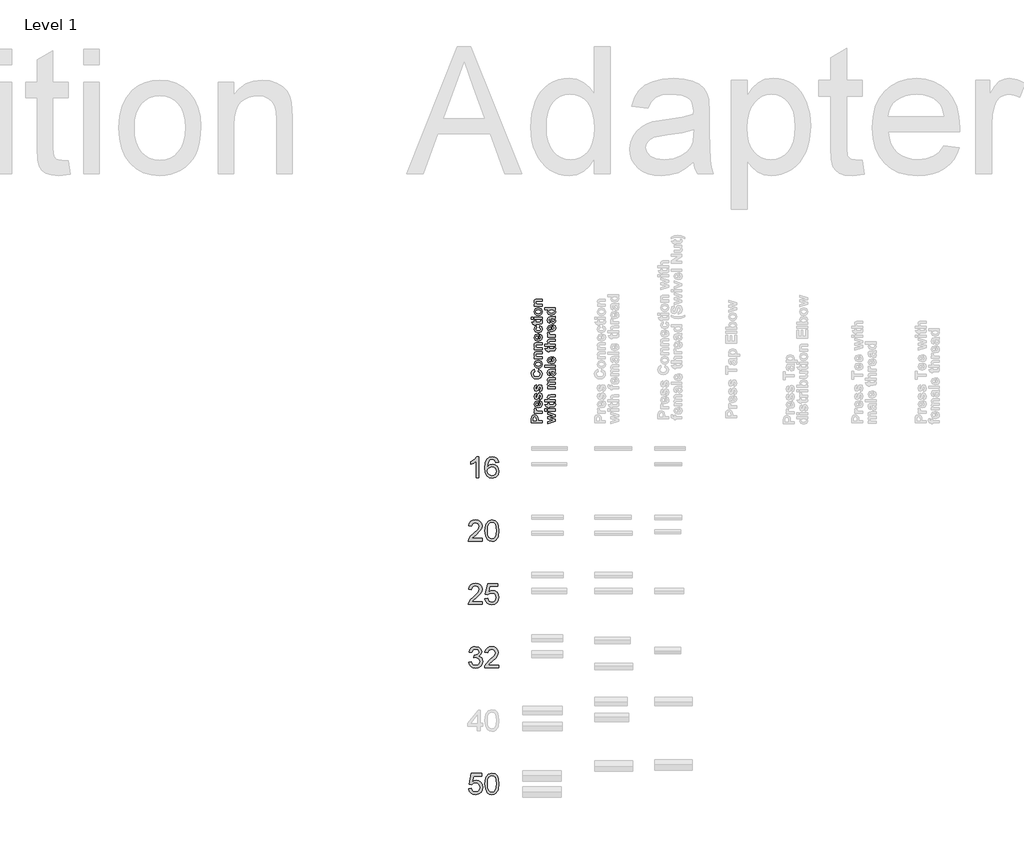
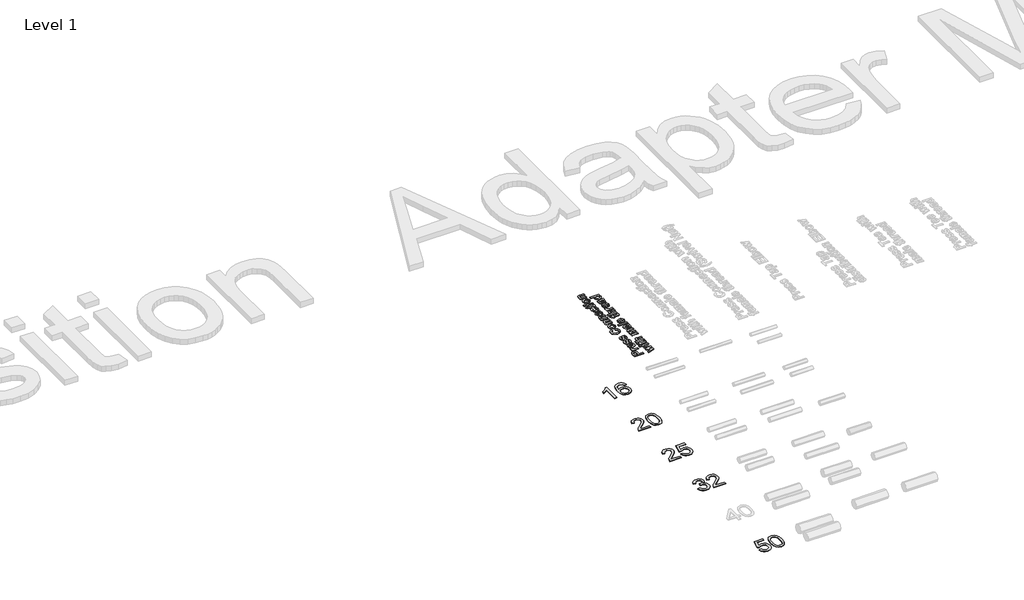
# One storey, part 41 of 58: 6 proxies.
"""IFC4 building model written with IfcOpenShell, lengths in millimetres."""

from ifc_helpers import new_model, si_unit, frame, origin, place, context, project, spatial, polyline, outline, extrude, element, save

model = new_model("IFC4")

# Units and contexts
model_context = context("Model", 3, world=origin())
ifc_project = project(units=[si_unit("LENGTHUNIT", "METRE", prefix="MILLI")], contexts=[model_context])

# Site, building, storey
site = spatial("IfcSite", under=ifc_project)
building = spatial("IfcBuilding", under=site)
storey = spatial("IfcBuildingStorey", under=building, Name="Level 1", Elevation=27.3876384)

# Proxies
placement = place(None, origin())
element("IfcBuildingElementProxy", 1, Name="100mm Arial", ObjectType="100mm Arial", at=placement, inside=storey, context=model_context, shape_type="SweptSolid", body=[
    extrude(outline(polyline([(29135.7147436, 29858.5322172), (29135.7147436, 29845.9751784), (29069.7902901, 29845.9751784), (29071.1391907, 29854.632668), (29078.7666107, 29867.962259), (29094.4874347, 29882.5181233), (29116.1679469, 29903.438346), (29121.588075, 29917.6631165), (29116.4745153, 29929.177823), (29103.1203988, 29933.8744498), (29089.2021967, 29929.2881876), (29083.9169587, 29916.6085215), (29071.3599199, 29918.1781513), (29074.4041434, 29930.3243885), (29080.9861655, 29939.196476), (29090.7626295, 29944.6227354), (29103.390179, 29946.4314885), (29116.1096989, 29944.4204003), (29125.8677689, 29938.3871356), (29132.0757775, 29929.3740267), (29134.1451138, 29918.423406), (29131.9132963, 29906.5162921), (29124.4943428, 29894.204508), (29106.5049132, 29876.9998933), (29092.0594135, 29864.9211012), (29086.3940308, 29858.5322172), (29135.7147436, 29858.5322172)])), frame((0.0, 0.0, 27.3876384), z_axis=(0.0, 0.0, 1.0), x_axis=(1.0, 0.0, 0.0)), (0.0, 0.0, 1.0), 2.0),
    extrude(outline(polyline([(29148.2717824, 29895.3939931), (29151.9628651, 29924.2972552), (29162.9257485, 29940.9623096), (29181.2340091, 29946.4314885), (29195.900238, 29943.194127), (29206.0292556, 29933.862187), (29211.9153675, 29918.9997544), (29214.1962359, 29895.3939931), (29210.5419414, 29866.6133583), (29199.6158462, 29849.9115157), (29191.3844865, 29845.7820404), (29181.2340091, 29844.4055486), (29168.186461, 29846.7967815), (29158.2781726, 29853.9704804), (29150.7733799, 29870.9604972), (29148.2717824, 29895.3939931)]), holes=[polyline([(29160.8288211, 29895.4185186), (29162.3003491, 29875.6663211), (29166.7149331, 29864.2343881), (29173.287758, 29858.7805375), (29181.2340091, 29856.9625873), (29189.1802602, 29858.7866689), (29195.7530852, 29864.2589136), (29200.1676692, 29875.6969779), (29201.6391971, 29895.4185186), (29200.2167201, 29914.7261919), (29195.9492889, 29926.2470297), (29189.3887267, 29931.9675948), (29181.0868563, 29933.8744498), (29173.2264444, 29932.1944553), (29166.9111368, 29927.154472), (29162.3494001, 29914.9162643), (29160.8288211, 29895.4185186)])]), frame((0.0, 0.0, 27.3876384), z_axis=(0.0, 0.0, 1.0), x_axis=(1.0, 0.0, 0.0)), (0.0, 0.0, 1.0), 2.0),
])
element("IfcBuildingElementProxy", 2, Name="100mm Arial", ObjectType="100mm Arial", at=placement, inside=storey, context=model_context, shape_type="SweptSolid", body=[
    extrude(outline(polyline([(29135.7147436, 29558.5322172), (29135.7147436, 29545.9751784), (29069.7902901, 29545.9751784), (29071.1391907, 29554.632668), (29078.7666107, 29567.962259), (29094.4874347, 29582.5181233), (29116.1679469, 29603.438346), (29121.588075, 29617.6631165), (29116.4745153, 29629.177823), (29103.1203988, 29633.8744498), (29089.2021967, 29629.2881876), (29083.9169587, 29616.6085215), (29071.3599199, 29618.1781513), (29074.4041434, 29630.3243885), (29080.9861655, 29639.196476), (29090.7626295, 29644.6227354), (29103.390179, 29646.4314885), (29116.1096989, 29644.4204003), (29125.8677689, 29638.3871356), (29132.0757775, 29629.3740267), (29134.1451138, 29618.423406), (29131.9132963, 29606.5162921), (29124.4943428, 29594.204508), (29106.5049132, 29576.9998933), (29092.0594135, 29564.9211012), (29086.3940308, 29558.5322172), (29135.7147436, 29558.5322172)])), frame((0.0, 0.0, 27.3876384), z_axis=(0.0, 0.0, 1.0), x_axis=(1.0, 0.0, 0.0)), (0.0, 0.0, 1.0), 2.0),
    extrude(outline(polyline([(29148.2717824, 29572.6588858), (29160.8288211, 29574.2285156), (29167.1563915, 29561.2913321), (29180.277516, 29556.9625873), (29189.2783621, 29558.4678378), (29196.0228653, 29562.9835893), (29200.2351142, 29569.9886756), (29201.6391971, 29578.9619306), (29196.3784846, 29593.8734142), (29189.7719371, 29597.9752984), (29180.4737197, 29599.3425932), (29169.4495226, 29597.1598267), (29162.398451, 29591.4944439), (29149.8414122, 29593.0640738), (29160.8288211, 29644.8618587), (29209.4873464, 29644.8618587), (29209.4873464, 29632.3048199), (29170.9823642, 29632.3048199), (29165.6112871, 29604.6400939), (29174.5814764, 29610.0847474), (29183.9808614, 29611.8996319), (29195.7132313, 29609.6494204), (29205.4529072, 29602.8987858), (29212.0104037, 29592.6103527), (29214.1962359, 29579.7467456), (29212.2280672, 29567.1897068), (29206.3235612, 29556.4475525), (29195.0173212, 29547.4160495), (29180.228465, 29544.4055486), (29167.8952211, 29546.3399947), (29158.0697062, 29552.1433332), (29151.3344, 29561.1411136), (29148.2717824, 29572.6588858)])), frame((0.0, 0.0, 27.3876384), z_axis=(0.0, 0.0, 1.0), x_axis=(1.0, 0.0, 0.0)), (0.0, 0.0, 1.0), 2.0),
])
element("IfcBuildingElementProxy", 3, Name="100mm Arial", ObjectType="100mm Arial", at=placement, inside=storey, context=model_context, shape_type="SweptSolid", body=[
    extrude(outline(polyline([(29071.3599199, 29272.6588858), (29083.9169587, 29274.2285156), (29090.8454029, 29261.0092893), (29103.8071119, 29256.9625873), (29112.4155506, 29258.3544075), (29119.061952, 29262.5298682), (29124.7273347, 29276.3131803), (29119.1110029, 29289.2994147), (29104.8371815, 29294.4374999), (29096.0325391, 29293.0640738), (29097.4304906, 29305.6211125), (29099.4415789, 29305.4739598), (29113.6908748, 29309.0792033), (29118.4365526, 29313.6532028), (29120.0184451, 29320.1647141), (29115.4321829, 29329.9871634), (29103.6109082, 29333.8744498), (29091.6424806, 29329.9503752), (29085.4865885, 29318.1781513), (29072.9295498, 29319.7477812), (29076.6267638, 29331.0233643), (29083.2057202, 29339.4417306), (29092.2065663, 29344.6840491), (29103.1694498, 29346.4314885), (29118.3139252, 29342.9856605), (29128.9089267, 29333.5678815), (29132.5754839, 29320.9004781), (29129.0928677, 29309.324458), (29118.7921718, 29301.0103249), (29132.477382, 29292.4264117), (29137.2843734, 29276.0924511), (29134.8808777, 29263.8542434), (29127.6703906, 29253.6271239), (29116.787215, 29246.7109424), (29103.3656535, 29244.4055486), (29091.2255477, 29246.3737172), (29081.3417847, 29252.2782232), (29074.4685228, 29261.3097262), (29071.3599199, 29272.6588858)])), frame((0.0, 0.0, 27.3876384), z_axis=(0.0, 0.0, 1.0), x_axis=(1.0, 0.0, 0.0)), (0.0, 0.0, 1.0), 2.0),
    extrude(outline(polyline([(29212.6266061, 29258.5322172), (29212.6266061, 29245.9751784), (29146.7021525, 29245.9751784), (29148.0510532, 29254.632668), (29155.6784732, 29267.962259), (29171.3992971, 29282.5181233), (29193.0798094, 29303.438346), (29198.4999374, 29317.6631165), (29193.3863777, 29329.177823), (29180.0322613, 29333.8744498), (29166.1140591, 29329.2881876), (29160.8288211, 29316.6085215), (29148.2717824, 29318.1781513), (29151.3160059, 29330.3243885), (29157.8980279, 29339.196476), (29167.6744919, 29344.6227354), (29180.3020414, 29346.4314885), (29193.0215614, 29344.4204003), (29202.7796313, 29338.3871356), (29208.98764, 29329.3740267), (29211.0569762, 29318.423406), (29208.8251588, 29306.5162921), (29201.4062052, 29294.204508), (29183.4167756, 29276.9998933), (29168.971276, 29264.9211012), (29163.3058932, 29258.5322172), (29212.6266061, 29258.5322172)])), frame((0.0, 0.0, 27.3876384), z_axis=(0.0, 0.0, 1.0), x_axis=(1.0, 0.0, 0.0)), (0.0, 0.0, 1.0), 2.0),
])
element("IfcBuildingElementProxy", 4, Name="100mm Arial", ObjectType="100mm Arial", at=placement, inside=storey, context=model_context, shape_type="SweptSolid", body=[
    extrude(outline(polyline([(29118.4488153, 30145.9751784), (29105.8917765, 30145.9751784), (29105.8917765, 30224.260467), (29093.9969253, 30215.7869183), (29080.777699, 30209.4470853), (29080.777699, 30221.317411), (29099.1840615, 30233.0651094), (29110.3554114, 30246.4314885), (29118.4488153, 30246.4314885), (29118.4488153, 30145.9751784)])), frame((0.0, 0.0, 27.3876384), z_axis=(0.0, 0.0, 1.0), x_axis=(1.0, 0.0, 0.0)), (0.0, 0.0, 1.0), 2.0),
    extrude(outline(polyline([(29212.6266061, 30219.7477812), (29200.0695673, 30218.1781513), (29195.3116268, 30228.6505254), (29182.7300626, 30233.8744498), (29171.3992971, 30230.833292), (29162.8276466, 30219.4166874), (29159.2591913, 30197.0371993), (29170.3324393, 30207.0558523), (29184.0544378, 30210.3300021), (29195.6549834, 30208.0920533), (29205.3915935, 30201.3782069), (29211.9950753, 30191.1204306), (29214.1962359, 30178.2506921), (29210.0514321, 30160.9234501), (29198.6470902, 30148.660717), (29182.1905023, 30144.4055486), (29167.9442721, 30147.2259772), (29156.5981782, 30155.6872631), (29149.1761589, 30170.6232721), (29146.7021525, 30192.8678701), (29149.4490048, 30217.8777144), (29157.6895614, 30234.9780958), (29168.9406191, 30243.5681404), (29183.5148775, 30246.4314885), (29194.5329433, 30244.6595236), (29203.3559798, 30239.3436288), (29209.5363973, 30230.900737), (29212.6266061, 30219.7477812)]), holes=[polyline([(29159.2591913, 30178.4468958), (29162.1654591, 30167.5698515), (29169.890981, 30159.6726514), (29181.2094837, 30156.9625873), (29189.4960256, 30158.3666703), (29196.0106026, 30162.5789191), (29200.2320485, 30169.200795), (29201.6391971, 30177.8337592), (29200.2504426, 30186.1203011), (29196.084179, 30192.4386744), (29189.4592374, 30196.4393911), (29180.6944489, 30197.7729633), (29165.5009225, 30192.4386744), (29160.8196241, 30186.2735853), (29159.2591913, 30178.4468958)])]), frame((0.0, 0.0, 27.3876384), z_axis=(0.0, 0.0, 1.0), x_axis=(1.0, 0.0, 0.0)), (0.0, 0.0, 1.0), 2.0),
])
element("IfcBuildingElementProxy", 5, Name="100mm Arial", ObjectType="100mm Arial", at=placement, inside=storey, context=model_context, shape_type="SweptSolid", body=[
    extrude(outline(polyline([(29071.3599199, 28672.6588858), (29083.9169587, 28674.2285156), (29090.244529, 28661.2913321), (29103.3656535, 28656.9625873), (29112.3664996, 28658.4678378), (29119.1110029, 28662.9835893), (29123.3232517, 28669.9886756), (29124.7273347, 28678.9619306), (29119.4666221, 28693.8734142), (29112.8600747, 28697.9752984), (29103.5618572, 28699.3425932), (29092.5376601, 28697.1598267), (29085.4865885, 28691.4944439), (29072.9295498, 28693.0640738), (29083.9169587, 28744.8618587), (29132.5754839, 28744.8618587), (29132.5754839, 28732.3048199), (29094.0705017, 28732.3048199), (29088.6994246, 28704.6400939), (29097.6696139, 28710.0847474), (29107.0689989, 28711.8996319), (29118.8013689, 28709.6494204), (29128.5410447, 28702.8987858), (29135.0985413, 28692.6103527), (29137.2843734, 28679.7467456), (29135.3162048, 28667.1897068), (29129.4116988, 28656.4475525), (29118.1054588, 28647.4160495), (29103.3166026, 28644.4055486), (29090.9833587, 28646.3399947), (29081.1578437, 28652.1433332), (29074.4225375, 28661.1411136), (29071.3599199, 28672.6588858)])), frame((0.0, 0.0, 27.3876384), z_axis=(0.0, 0.0, 1.0), x_axis=(1.0, 0.0, 0.0)), (0.0, 0.0, 1.0), 2.0),
    extrude(outline(polyline([(29148.2717824, 28695.3939931), (29151.9628651, 28724.2972552), (29162.9257485, 28740.9623096), (29181.2340091, 28746.4314885), (29195.900238, 28743.194127), (29206.0292556, 28733.862187), (29211.9153675, 28718.9997544), (29214.1962359, 28695.3939931), (29210.5419414, 28666.6133583), (29199.6158462, 28649.9115157), (29191.3844865, 28645.7820404), (29181.2340091, 28644.4055486), (29168.186461, 28646.7967815), (29158.2781726, 28653.9704804), (29150.7733799, 28670.9604972), (29148.2717824, 28695.3939931)]), holes=[polyline([(29160.8288211, 28695.4185186), (29162.3003491, 28675.6663211), (29166.7149331, 28664.2343881), (29173.287758, 28658.7805375), (29181.2340091, 28656.9625873), (29189.1802602, 28658.7866689), (29195.7530852, 28664.2589136), (29200.1676692, 28675.6969779), (29201.6391971, 28695.4185186), (29200.2167201, 28714.7261919), (29195.9492889, 28726.2470297), (29189.3887267, 28731.9675948), (29181.0868563, 28733.8744498), (29173.2264444, 28732.1944553), (29166.9111368, 28727.154472), (29162.3494001, 28714.9162643), (29160.8288211, 28695.4185186)])]), frame((0.0, 0.0, 27.3876384), z_axis=(0.0, 0.0, 1.0), x_axis=(1.0, 0.0, 0.0)), (0.0, 0.0, 1.0), 2.0),
])
element("IfcBuildingElementProxy", 6, Name="50mm Arial", ObjectType="50mm Arial", at=placement, inside=storey, context=model_context, shape_type="SweptSolid", body=[
    extrude(outline(polyline([(29419.1417262, 30406.1759681), (29368.1287562, 30406.1759681), (29368.1287562, 30422.6109503), (29368.8878778, 30434.7948516), (29373.8537981, 30442.1013968), (29383.7287046, 30445.0429929), (29391.5792869, 30443.3159913), (29396.5768373, 30438.9257382), (29398.9870483, 30433.516997), (29399.7082138, 30422.6995145), (29399.7082138, 30415.8927243), (29419.1417262, 30415.8927243), (29419.1417262, 30406.1759681)]), holes=[polyline([(29377.0357827, 30415.8927243), (29390.8011873, 30415.8927243), (29390.8011873, 30421.9277409), (29390.0420657, 30430.638661), (29387.6571588, 30434.0800121), (29383.8805289, 30435.3262367), (29379.5155798, 30433.5739311), (29377.3647354, 30429.1520479), (29377.0357827, 30421.2192274), (29377.0357827, 30415.8927243)])]), frame((0.0, 0.0, 27.3876384), z_axis=(0.0, 0.0, 1.0), x_axis=(1.0, 0.0, 0.0)), (0.0, 0.0, 1.0), 2.0),
    extrude(outline(polyline([(29419.1417262, 30462.8570459), (29419.1417262, 30453.1402897), (29381.8941608, 30453.1402897), (29381.8941608, 30462.8570459), (29387.0814916, 30462.8570459), (29382.2420915, 30466.741218), (29381.0844311, 30470.6633461), (29383.1340594, 30476.6224505), (29392.3826906, 30473.7883966), (29390.8011873, 30469.2842753), (29391.9082396, 30465.8619022), (29395.8999539, 30463.6604496), (29407.995291, 30462.8570459), (29419.1417262, 30462.8570459)])), frame((0.0, 0.0, 27.3876384), z_axis=(0.0, 0.0, 1.0), x_axis=(1.0, 0.0, 0.0)), (0.0, 0.0, 1.0), 2.0),
    extrude(outline(polyline([(29407.8055106, 30501.7240707), (29409.42497, 30511.4408269), (29417.2629003, 30505.6461988), (29419.9514559, 30495.7396622), (29418.3667896, 30487.5506382), (29413.6127907, 30481.8097813), (29400.7962881, 30478.2419099), (29386.32237, 30482.9737677), (29381.0844311, 30494.9425846), (29386.4615423, 30507.7590872), (29402.9471325, 30512.2505566), (29402.9471325, 30487.9586661), (29410.1081794, 30490.2486828), (29412.6638887, 30495.7017062), (29411.5125543, 30499.4340539), (29407.8055106, 30501.7240707)]), holes=[polyline([(29397.2790248, 30502.5338004), (29390.643037, 30500.3703039), (29388.3719982, 30495.3601015), (29390.7632312, 30490.1474666), (29397.2790248, 30488.1231424), (29397.2790248, 30502.5338004)])]), frame((0.0, 0.0, 27.3876384), z_axis=(0.0, 0.0, 1.0), x_axis=(1.0, 0.0, 0.0)), (0.0, 0.0, 1.0), 2.0),
    extrude(outline(polyline([(29408.6152403, 30515.4894753), (29406.9957809, 30525.2062315), (29411.2215577, 30527.6923546), (29412.6638887, 30532.9366195), (29411.2848179, 30538.5161631), (29408.7038045, 30539.7813658), (29406.8819127, 30539.1108084), (29405.604058, 30535.9351498), (29400.8468962, 30521.3726675), (29392.4839068, 30517.1089346), (29384.3739579, 30520.7653702), (29381.0844311, 30532.1142378), (29383.7413566, 30542.9823284), (29391.610917, 30547.8786626), (29393.2303763, 30538.1619064), (29389.6245488, 30536.2894065), (29388.3719982, 30532.3672784), (29389.4347685, 30527.7492888), (29391.4084846, 30526.8256908), (29393.1671162, 30527.7492888), (29395.8873019, 30536.3463406), (29400.2269469, 30546.61346), (29407.527166, 30549.4981219), (29416.2886942, 30545.3166273), (29419.9514559, 30532.9366195), (29416.9023175, 30521.1639091), (29408.6152403, 30515.4894753)])), frame((0.0, 0.0, 27.3876384), z_axis=(0.0, 0.0, 1.0), x_axis=(1.0, 0.0, 0.0)), (0.0, 0.0, 1.0), 2.0),
    extrude(outline(polyline([(29408.6152403, 30554.3565), (29406.9957809, 30564.0732562), (29411.2215577, 30566.5593794), (29412.6638887, 30571.8036443), (29411.2848179, 30577.3831879), (29408.7038045, 30578.6483905), (29406.8819127, 30577.9778331), (29405.604058, 30574.8021745), (29400.8468962, 30560.2396923), (29392.4839068, 30555.9759594), (29384.3739579, 30559.632395), (29381.0844311, 30570.9812626), (29383.7413566, 30581.8493532), (29391.610917, 30586.7456873), (29393.2303763, 30577.0289312), (29389.6245488, 30575.1564313), (29388.3719982, 30571.2343031), (29389.4347685, 30566.6163135), (29391.4084846, 30565.6927156), (29393.1671162, 30566.6163135), (29395.8873019, 30575.2133654), (29400.2269469, 30585.4804847), (29407.527166, 30588.3651467), (29416.2886942, 30584.183652), (29419.9514559, 30571.8036443), (29416.9023175, 30560.0309338), (29408.6152403, 30554.3565)])), frame((0.0, 0.0, 27.3876384), z_axis=(0.0, 0.0, 1.0), x_axis=(1.0, 0.0, 0.0)), (0.0, 0.0, 1.0), 2.0),
    extrude(outline(polyline([(29399.7082138, 30649.9046026), (29402.9471325, 30659.6213588), (29415.1500119, 30651.9668829), (29419.1417262, 30638.3786066), (29417.4368656, 30629.1015084), (29412.322284, 30621.6399758), (29404.2502912, 30616.7246636), (29393.6731973, 30615.0862262), (29382.5583922, 30616.7388972), (29374.2396849, 30621.69691), (29369.0491911, 30629.3498044), (29367.3190265, 30639.0871201), (29368.7455425, 30647.6145858), (29373.0250904, 30654.3707679), (29382.7038905, 30659.6213588), (29384.3233498, 30649.9046026), (29378.3958755, 30645.8749322), (29376.226053, 30638.4165627), (29380.1671592, 30628.5796123), (29392.9267277, 30624.8029824), (29406.2619634, 30628.465744), (29410.2346997, 30637.9990458), (29407.6979684, 30645.4321113), (29399.7082138, 30649.9046026)])), frame((0.0, 0.0, 27.3876384), z_axis=(0.0, 0.0, 1.0), x_axis=(1.0, 0.0, 0.0)), (0.0, 0.0, 1.0), 2.0),
    extrude(outline(polyline([(29399.9865584, 30665.2894665), (29390.5038647, 30667.6870255), (29383.5009681, 30674.4748376), (29381.0844311, 30684.280158), (29386.5627585, 30698.0012805), (29400.4167273, 30703.3467616), (29414.4035423, 30697.9443464), (29419.9514559, 30684.3560702), (29417.6424611, 30674.6835961), (29410.867301, 30667.6870255), (29399.9865584, 30665.2894665)]), holes=[polyline([(29400.5179435, 30675.0062227), (29409.5325122, 30677.6947783), (29412.6638887, 30684.3307661), (29409.5325122, 30690.9541019), (29400.4420313, 30693.6300054), (29391.5033747, 30690.9541019), (29388.3719982, 30684.3307661), (29391.5033747, 30677.6947783), (29400.5179435, 30675.0062227)])]), frame((0.0, 0.0, 27.3876384), z_axis=(0.0, 0.0, 1.0), x_axis=(1.0, 0.0, 0.0)), (0.0, 0.0, 1.0), 2.0),
    extrude(outline(polyline([(29419.1417262, 30743.8332457), (29419.1417262, 30734.1164896), (29399.9992104, 30734.1164896), (29392.1296501, 30733.5091923), (29389.3588563, 30731.5228242), (29388.3719982, 30728.2206453), (29389.7826992, 30723.7734581), (29393.527699, 30721.0785765), (29402.1500549, 30720.351085), (29419.1417262, 30720.351085), (29419.1417262, 30710.6343288), (29381.8941608, 30710.6343288), (29381.8941608, 30720.351085), (29387.2586199, 30720.351085), (29382.6279783, 30725.5668828), (29381.0844311, 30731.9782971), (29382.2610695, 30737.6211008), (29385.2595998, 30741.4926209), (29389.3904864, 30743.3208387), (29396.0138221, 30743.8332457), (29419.1417262, 30743.8332457)])), frame((0.0, 0.0, 27.3876384), z_axis=(0.0, 0.0, 1.0), x_axis=(1.0, 0.0, 0.0)), (0.0, 0.0, 1.0), 2.0),
    extrude(outline(polyline([(29419.1417262, 30786.7489189), (29419.1417262, 30777.0321627), (29399.9992104, 30777.0321627), (29392.1296501, 30776.4248655), (29389.3588563, 30774.4384973), (29388.3719982, 30771.1363185), (29389.7826992, 30766.6891312), (29393.527699, 30763.9942496), (29402.1500549, 30763.2667581), (29419.1417262, 30763.2667581), (29419.1417262, 30753.5500019), (29381.8941608, 30753.5500019), (29381.8941608, 30763.2667581), (29387.2586199, 30763.2667581), (29382.6279783, 30768.482556), (29381.0844311, 30774.8939703), (29382.2610695, 30780.536774), (29385.2595998, 30784.4082941), (29389.3904864, 30786.2365119), (29396.0138221, 30786.7489189), (29419.1417262, 30786.7489189)])), frame((0.0, 0.0, 27.3876384), z_axis=(0.0, 0.0, 1.0), x_axis=(1.0, 0.0, 0.0)), (0.0, 0.0, 1.0), 2.0),
    extrude(outline(polyline([(29407.8055106, 30817.5186469), (29409.42497, 30827.235403), (29417.2629003, 30821.440775), (29419.9514559, 30811.5342384), (29418.3667896, 30803.3452144), (29413.6127907, 30797.6043575), (29400.7962881, 30794.0364861), (29386.32237, 30798.7683439), (29381.0844311, 30810.7371608), (29386.4615423, 30823.5536634), (29402.9471325, 30828.0451327), (29402.9471325, 30803.7532423), (29410.1081794, 30806.043259), (29412.6638887, 30811.4962823), (29411.5125543, 30815.2286301), (29407.8055106, 30817.5186469)]), holes=[polyline([(29397.2790248, 30818.3283765), (29390.643037, 30816.16488), (29388.3719982, 30811.1546776), (29390.7632312, 30805.9420428), (29397.2790248, 30803.9177186), (29397.2790248, 30818.3283765)])]), frame((0.0, 0.0, 27.3876384), z_axis=(0.0, 0.0, 1.0), x_axis=(1.0, 0.0, 0.0)), (0.0, 0.0, 1.0), 2.0),
    extrude(outline(polyline([(29392.4206467, 30866.1024278), (29394.040106, 30856.3856716), (29389.7953512, 30854.3170653), (29388.3719982, 30850.1229186), (29391.0415758, 30844.6572432), (29399.9612543, 30842.620267), (29409.7918788, 30844.7394814), (29412.6638887, 30850.4265672), (29411.0254513, 30854.7978423), (29405.3763216, 30857.1954013), (29406.9957809, 30866.9121575), (29416.6809071, 30861.3136359), (29419.9514559, 30850.2114828), (29414.8020812, 30837.6037386), (29400.5558996, 30832.9035108), (29386.2148278, 30837.5721085), (29381.0844311, 30850.2114828), (29383.8868549, 30860.5734923), (29392.4206467, 30866.1024278)])), frame((0.0, 0.0, 27.3876384), z_axis=(0.0, 0.0, 1.0), x_axis=(1.0, 0.0, 0.0)), (0.0, 0.0, 1.0), 2.0),
    extrude(outline(polyline([(29381.8941608, 30892.0137776), (29389.1817279, 30892.0137776), (29389.1817279, 30884.7262105), (29405.1612371, 30884.7262105), (29410.8103669, 30884.947621), (29412.1388296, 30885.9534571), (29412.6638887, 30887.863913), (29411.7276388, 30892.4186425), (29418.6356451, 30892.8235073), (29419.9514559, 30884.8653828), (29419.04051, 30879.9563966), (29416.6872331, 30876.7491079), (29412.777757, 30875.325755), (29405.7052743, 30875.0094543), (29389.1817279, 30875.0094543), (29389.1817279, 30870.1510762), (29381.8941608, 30870.1510762), (29381.8941608, 30875.0094543), (29374.6065936, 30875.0094543), (29368.9384859, 30884.7262105), (29381.8941608, 30884.7262105), (29381.8941608, 30892.0137776)])), frame((0.0, 0.0, 27.3876384), z_axis=(0.0, 0.0, 1.0), x_axis=(1.0, 0.0, 0.0)), (0.0, 0.0, 1.0), 2.0),
    extrude(outline(polyline([(29377.0357827, 30897.6818854), (29368.1287562, 30897.6818854), (29368.1287562, 30907.3986416), (29377.0357827, 30907.3986416), (29377.0357827, 30897.6818854)])), frame((0.0, 0.0, 27.3876384), z_axis=(0.0, 0.0, 1.0), x_axis=(1.0, 0.0, 0.0)), (0.0, 0.0, 1.0), 2.0),
    extrude(outline(polyline([(29419.1417262, 30897.6818854), (29381.8941608, 30897.6818854), (29381.8941608, 30907.3986416), (29419.1417262, 30907.3986416), (29419.1417262, 30897.6818854)])), frame((0.0, 0.0, 27.3876384), z_axis=(0.0, 0.0, 1.0), x_axis=(1.0, 0.0, 0.0)), (0.0, 0.0, 1.0), 2.0),
    extrude(outline(polyline([(29399.9865584, 30914.6862088), (29390.5038647, 30917.0837677), (29383.5009681, 30923.8715798), (29381.0844311, 30933.6769002), (29386.5627585, 30947.3980227), (29400.4167273, 30952.7435038), (29414.4035423, 30947.3410886), (29419.9514559, 30933.7528124), (29417.6424611, 30924.0803383), (29410.867301, 30917.0837677), (29399.9865584, 30914.6862088)]), holes=[polyline([(29400.5179435, 30924.4029649), (29409.5325122, 30927.0915205), (29412.6638887, 30933.7275083), (29409.5325122, 30940.3508441), (29400.4420313, 30943.0267476), (29391.5033747, 30940.3508441), (29388.3719982, 30933.7275083), (29391.5033747, 30927.0915205), (29400.5179435, 30924.4029649)])]), frame((0.0, 0.0, 27.3876384), z_axis=(0.0, 0.0, 1.0), x_axis=(1.0, 0.0, 0.0)), (0.0, 0.0, 1.0), 2.0),
    extrude(outline(polyline([(29419.1417262, 30993.229988), (29419.1417262, 30983.5132318), (29399.9992104, 30983.5132318), (29392.1296501, 30982.9059345), (29389.3588563, 30980.9195664), (29388.3719982, 30977.6173875), (29389.7826992, 30973.1702003), (29393.527699, 30970.4753187), (29402.1500549, 30969.7478272), (29419.1417262, 30969.7478272), (29419.1417262, 30960.031071), (29381.8941608, 30960.031071), (29381.8941608, 30969.7478272), (29387.2586199, 30969.7478272), (29382.6279783, 30974.963625), (29381.0844311, 30981.3750393), (29382.2610695, 30987.0178431), (29385.2595998, 30990.8893631), (29389.3904864, 30992.7175809), (29396.0138221, 30993.229988), (29419.1417262, 30993.229988)])), frame((0.0, 0.0, 27.3876384), z_axis=(0.0, 0.0, 1.0), x_axis=(1.0, 0.0, 0.0)), (0.0, 0.0, 1.0), 2.0),
    extrude(outline(polyline([(29482.0974011, 30413.9443123), (29444.8498357, 30402.1273197), (29444.8498357, 30411.7302077), (29469.2555944, 30418.7267782), (29444.8498357, 30425.2678758), (29444.8498357, 30435.0099361), (29469.2555944, 30441.3992093), (29444.8498357, 30448.4210839), (29444.8498357, 30457.9986678), (29482.0974011, 30446.2069793), (29482.0974011, 30436.6673515), (29458.1471153, 30430.0629938), (29482.0974011, 30423.6231124), (29482.0974011, 30413.9443123)])), frame((0.0, 0.0, 27.3876384), z_axis=(0.0, 0.0, 1.0), x_axis=(1.0, 0.0, 0.0)), (0.0, 0.0, 1.0), 2.0),
    extrude(outline(polyline([(29439.9914576, 30462.8570459), (29431.0844311, 30462.8570459), (29431.0844311, 30472.5738021), (29439.9914576, 30472.5738021), (29439.9914576, 30462.8570459)])), frame((0.0, 0.0, 27.3876384), z_axis=(0.0, 0.0, 1.0), x_axis=(1.0, 0.0, 0.0)), (0.0, 0.0, 1.0), 2.0),
    extrude(outline(polyline([(29482.0974011, 30462.8570459), (29444.8498357, 30462.8570459), (29444.8498357, 30472.5738021), (29482.0974011, 30472.5738021), (29482.0974011, 30462.8570459)])), frame((0.0, 0.0, 27.3876384), z_axis=(0.0, 0.0, 1.0), x_axis=(1.0, 0.0, 0.0)), (0.0, 0.0, 1.0), 2.0),
    extrude(outline(polyline([(29444.8498357, 30500.1046113), (29452.1374028, 30500.1046113), (29452.1374028, 30492.8170442), (29468.116912, 30492.8170442), (29473.7660418, 30493.0384546), (29475.0945045, 30494.0442907), (29475.6195636, 30495.9547467), (29474.6833137, 30500.5094762), (29481.59132, 30500.914341), (29482.9071308, 30492.9562165), (29481.9961849, 30488.0472303), (29479.642908, 30484.8399416), (29475.7334319, 30483.4165886), (29468.6609492, 30483.100288), (29452.1374028, 30483.100288), (29452.1374028, 30478.2419099), (29444.8498357, 30478.2419099), (29444.8498357, 30483.100288), (29437.5622686, 30483.100288), (29431.8941608, 30492.8170442), (29444.8498357, 30492.8170442), (29444.8498357, 30500.1046113)])), frame((0.0, 0.0, 27.3876384), z_axis=(0.0, 0.0, 1.0), x_axis=(1.0, 0.0, 0.0)), (0.0, 0.0, 1.0), 2.0),
    extrude(outline(polyline([(29431.0844311, 30515.4894753), (29449.5563895, 30515.4894753), (29444.040106, 30526.6106064), (29445.2989826, 30532.6076669), (29448.5252493, 30536.6310112), (29452.8712204, 30538.478207), (29460.2600037, 30538.9716361), (29482.0974011, 30538.9716361), (29482.0974011, 30529.2548799), (29462.2843279, 30529.2548799), (29454.7880024, 30528.7108428), (29452.2639231, 30526.7877348), (29451.3276732, 30523.3463836), (29452.5296157, 30519.0953028), (29456.1480952, 30516.3561391), (29463.3091421, 30515.4894753), (29482.0974011, 30515.4894753), (29482.0974011, 30505.7727191), (29431.0844311, 30505.7727191), (29431.0844311, 30515.4894753)])), frame((0.0, 0.0, 27.3876384), z_axis=(0.0, 0.0, 1.0), x_axis=(1.0, 0.0, 0.0)), (0.0, 0.0, 1.0), 2.0),
    extrude(outline(polyline([(29444.8498357, 30567.312175), (29444.8498357, 30577.0289312), (29449.8347341, 30577.0289312), (29444.040106, 30587.8970217), (29445.463459, 30593.7106278), (29449.7714739, 30597.7529502), (29445.463459, 30602.921303), (29444.040106, 30608.8487773), (29445.7038475, 30615.6176113), (29450.5938556, 30619.767476), (29458.2989396, 30620.754334), (29482.0974011, 30620.754334), (29482.0974011, 30611.0375778), (29460.6522165, 30611.0375778), (29453.4532136, 30610.0507198), (29451.3276732, 30605.9767673), (29452.5992018, 30602.2127895), (29456.3252235, 30599.6697322), (29464.0809157, 30598.8916326), (29482.0974011, 30598.8916326), (29482.0974011, 30589.1748764), (29461.5378584, 30589.1748764), (29454.4717017, 30588.6687953), (29452.1057728, 30587.1062701), (29451.3276732, 30584.2279341), (29452.5612457, 30580.2931539), (29456.1291171, 30577.7880527), (29463.8658312, 30577.0289312), (29482.0974011, 30577.0289312), (29482.0974011, 30567.312175), (29444.8498357, 30567.312175)])), frame((0.0, 0.0, 27.3876384), z_axis=(0.0, 0.0, 1.0), x_axis=(1.0, 0.0, 0.0)), (0.0, 0.0, 1.0), 2.0),
    extrude(outline(polyline([(29456.1860513, 30638.568387), (29454.5665919, 30629.6613605), (29446.6211194, 30634.5513687), (29444.040106, 30644.8564441), (29445.6026313, 30654.1050753), (29449.5627155, 30658.3814602), (29458.3748518, 30659.6213588), (29469.8628917, 30659.6213588), (29477.0998507, 30660.1337658), (29482.0974011, 30662.0505478), (29482.0974011, 30652.3337916), (29479.0103067, 30651.4228457), (29481.6229501, 30645.8812582), (29482.9071308, 30639.9727619), (29479.7884063, 30631.2365378), (29471.9125199, 30628.0419011), (29466.2950203, 30629.4652541), (29462.5120644, 30633.4569684), (29460.2220476, 30640.8584038), (29457.8055106, 30649.9046026), (29452.5802238, 30648.6963341), (29451.3276732, 30644.1479306), (29452.4030954, 30640.6180153), (29456.1860513, 30638.568387)]), holes=[polyline([(29465.0930778, 30649.9046026), (29466.4405186, 30644.4262752), (29467.9777398, 30639.517289), (29471.0774862, 30637.7586573), (29474.2721228, 30639.1693583), (29475.6195636, 30642.7562077), (29474.0507124, 30647.3995014), (29471.1407463, 30649.5503458), (29466.8517094, 30649.9046026), (29465.0930778, 30649.9046026)])]), frame((0.0, 0.0, 27.3876384), z_axis=(0.0, 0.0, 1.0), x_axis=(1.0, 0.0, 0.0)), (0.0, 0.0, 1.0), 2.0),
    extrude(outline(polyline([(29482.0974011, 30669.338115), (29431.0844311, 30669.338115), (29431.0844311, 30679.0548711), (29482.0974011, 30679.0548711), (29482.0974011, 30669.338115)])), frame((0.0, 0.0, 27.3876384), z_axis=(0.0, 0.0, 1.0), x_axis=(1.0, 0.0, 0.0)), (0.0, 0.0, 1.0), 2.0),
    extrude(outline(polyline([(29470.7611855, 30709.8245991), (29472.3806449, 30719.5413553), (29480.2185752, 30713.7467272), (29482.9071308, 30703.8401906), (29481.3224645, 30695.6511666), (29476.5684656, 30689.9103097), (29463.751963, 30686.3424383), (29449.2780449, 30691.0742961), (29444.040106, 30703.043113), (29449.4172172, 30715.8596156), (29465.9028074, 30720.351085), (29465.9028074, 30696.0591945), (29473.0638543, 30698.3492112), (29475.6195636, 30703.8022346), (29474.4682292, 30707.5345823), (29470.7611855, 30709.8245991)]), holes=[polyline([(29460.2346997, 30710.6343288), (29453.5987119, 30708.4708323), (29451.3276732, 30703.4606299), (29453.7189061, 30698.247995), (29460.2346997, 30696.2236708), (29460.2346997, 30710.6343288)])]), frame((0.0, 0.0, 27.3876384), z_axis=(0.0, 0.0, 1.0), x_axis=(1.0, 0.0, 0.0)), (0.0, 0.0, 1.0), 2.0),
    extrude(outline(polyline([(29444.8498357, 30764.8862175), (29452.1374028, 30764.8862175), (29452.1374028, 30757.5986504), (29468.116912, 30757.5986504), (29473.7660418, 30757.8200608), (29475.0945045, 30758.8258969), (29475.6195636, 30760.7363529), (29474.6833137, 30765.2910823), (29481.59132, 30765.6959472), (29482.9071308, 30757.7378226), (29481.9961849, 30752.8288364), (29479.642908, 30749.6215478), (29475.7334319, 30748.1981948), (29468.6609492, 30747.8818942), (29452.1374028, 30747.8818942), (29452.1374028, 30743.0235161), (29444.8498357, 30743.0235161), (29444.8498357, 30747.8818942), (29437.5622686, 30747.8818942), (29431.8941608, 30757.5986504), (29444.8498357, 30757.5986504), (29444.8498357, 30764.8862175)])), frame((0.0, 0.0, 27.3876384), z_axis=(0.0, 0.0, 1.0), x_axis=(1.0, 0.0, 0.0)), (0.0, 0.0, 1.0), 2.0),
    extrude(outline(polyline([(29431.0844311, 30780.2710815), (29449.5563895, 30780.2710815), (29444.040106, 30791.3922126), (29445.2989826, 30797.389273), (29448.5252493, 30801.4126174), (29452.8712204, 30803.2598132), (29460.2600037, 30803.7532423), (29482.0974011, 30803.7532423), (29482.0974011, 30794.0364861), (29462.2843279, 30794.0364861), (29454.7880024, 30793.4924489), (29452.2639231, 30791.5693409), (29451.3276732, 30788.1279898), (29452.5296157, 30783.876909), (29456.1480952, 30781.1377453), (29463.3091421, 30780.2710815), (29482.0974011, 30780.2710815), (29482.0974011, 30770.5543253), (29431.0844311, 30770.5543253), (29431.0844311, 30780.2710815)])), frame((0.0, 0.0, 27.3876384), z_axis=(0.0, 0.0, 1.0), x_axis=(1.0, 0.0, 0.0)), (0.0, 0.0, 1.0), 2.0),
    extrude(outline(polyline([(29482.0974011, 30823.1867546), (29482.0974011, 30813.4699984), (29444.8498357, 30813.4699984), (29444.8498357, 30823.1867546), (29450.0371665, 30823.1867546), (29445.1977664, 30827.0709267), (29444.040106, 30830.9930549), (29446.0897343, 30836.9521592), (29455.3383655, 30834.1181053), (29453.7568622, 30829.613984), (29454.8639145, 30826.1916109), (29458.8556288, 30823.9901583), (29470.9509659, 30823.1867546), (29482.0974011, 30823.1867546)])), frame((0.0, 0.0, 27.3876384), z_axis=(0.0, 0.0, 1.0), x_axis=(1.0, 0.0, 0.0)), (0.0, 0.0, 1.0), 2.0),
    extrude(outline(polyline([(29470.7611855, 30862.0537794), (29472.3806449, 30871.7705356), (29480.2185752, 30865.9759075), (29482.9071308, 30856.069371), (29481.3224645, 30847.8803469), (29476.5684656, 30842.13949), (29463.751963, 30838.5716186), (29449.2780449, 30843.3034764), (29444.040106, 30855.2722933), (29449.4172172, 30868.0887959), (29465.9028074, 30872.5802653), (29465.9028074, 30848.2883748), (29473.0638543, 30850.5783915), (29475.6195636, 30856.0314149), (29474.4682292, 30859.7637626), (29470.7611855, 30862.0537794)]), holes=[polyline([(29460.2346997, 30862.8635091), (29453.5987119, 30860.7000126), (29451.3276732, 30855.6898102), (29453.7189061, 30850.4771753), (29460.2346997, 30848.4528511), (29460.2346997, 30862.8635091)])]), frame((0.0, 0.0, 27.3876384), z_axis=(0.0, 0.0, 1.0), x_axis=(1.0, 0.0, 0.0)), (0.0, 0.0, 1.0), 2.0),
    extrude(outline(polyline([(29456.1860513, 30887.9651292), (29454.5665919, 30879.0581027), (29446.6211194, 30883.9481109), (29444.040106, 30894.2531863), (29445.6026313, 30903.5018175), (29449.5627155, 30907.7782024), (29458.3748518, 30909.018101), (29469.8628917, 30909.018101), (29477.0998507, 30909.530508), (29482.0974011, 30911.44729), (29482.0974011, 30901.7305338), (29479.0103067, 30900.8195879), (29481.6229501, 30895.2780004), (29482.9071308, 30889.3695042), (29479.7884063, 30880.63328), (29471.9125199, 30877.4386434), (29466.2950203, 30878.8619963), (29462.5120644, 30882.8537106), (29460.2220476, 30890.255146), (29457.8055106, 30899.3013448), (29452.5802238, 30898.0930763), (29451.3276732, 30893.5446728), (29452.4030954, 30890.0147575), (29456.1860513, 30887.9651292)]), holes=[polyline([(29465.0930778, 30899.3013448), (29466.4405186, 30893.8230174), (29467.9777398, 30888.9140312), (29471.0774862, 30887.1553996), (29474.2721228, 30888.5661005), (29475.6195636, 30892.1529499), (29474.0507124, 30896.7962436), (29471.1407463, 30898.9470881), (29466.8517094, 30899.3013448), (29465.0930778, 30899.3013448)])]), frame((0.0, 0.0, 27.3876384), z_axis=(0.0, 0.0, 1.0), x_axis=(1.0, 0.0, 0.0)), (0.0, 0.0, 1.0), 2.0),
    extrude(outline(polyline([(29482.0974011, 30951.9337742), (29482.0974011, 30942.217018), (29476.732942, 30942.217018), (29481.3825616, 30937.0866213), (29482.9071308, 30931.1338429), (29477.7451041, 30920.6642912), (29463.3344461, 30916.3056681), (29448.9617442, 30920.6579652), (29444.040106, 30931.665228), (29449.1388726, 30942.217018), (29431.0844311, 30942.217018), (29431.0844311, 30951.9337742), (29482.0974011, 30951.9337742)]), holes=[polyline([(29462.7651049, 30926.0224243), (29471.6468274, 30927.6418837), (29475.6195636, 30934.1829813), (29472.6400114, 30939.8763931), (29463.739311, 30942.217018), (29454.2313132, 30939.9459792), (29451.3276732, 30934.1197211), (29454.1996831, 30928.3503971), (29462.7651049, 30926.0224243)])]), frame((0.0, 0.0, 27.3876384), z_axis=(0.0, 0.0, 1.0), x_axis=(1.0, 0.0, 0.0)), (0.0, 0.0, 1.0), 2.0),
])

save(model, "model.ifc")
